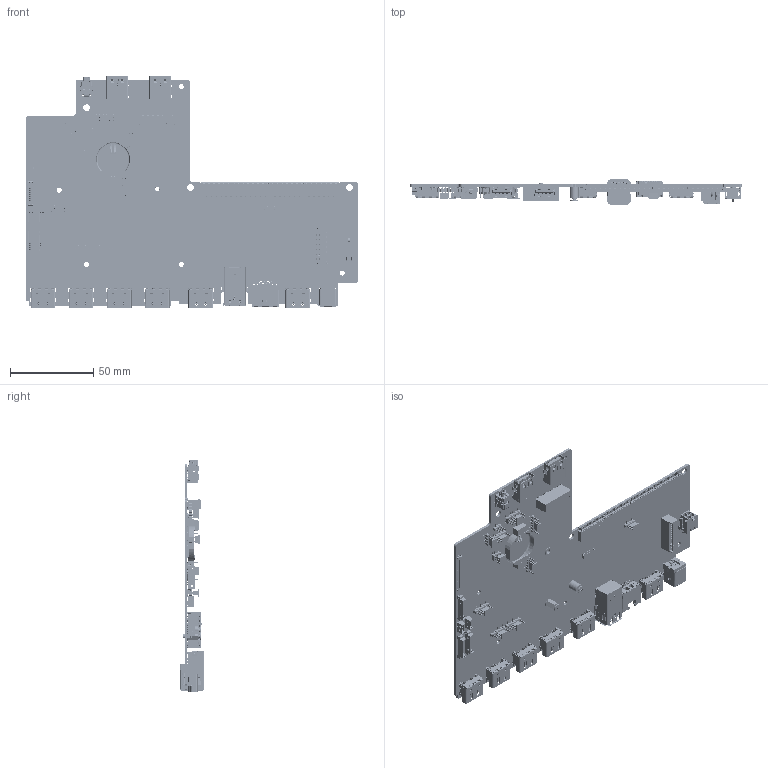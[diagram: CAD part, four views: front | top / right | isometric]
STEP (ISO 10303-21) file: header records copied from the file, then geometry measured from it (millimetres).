
FILE_DESCRIPTION((''),'2;1');
FILE_NAME('PCBA_C_MULTI_HDMI_KIT_AB_2_ASM','2019-10-18T',('jessechien'),(''),'PRO/ENGINEER BY PARAMETRIC TECHNOLOGY CORPORATION, 2015030','PRO/ENGINEER BY PARAMETRIC TECHNOLOGY CORPORATION, 2015030','');
FILE_SCHEMA(('AUTOMOTIVE_DESIGN { 1 0 10303 214 1 1 1 1 }'));
Products named in the file (28): PCB_C_MUTI_HDMI_KIT_AB_2; 10-084-009126_LOTES_AUSTINB; 10-084-004145_LOTES; TLLA4-72BWQR_DIPTRONICS; 11-371-002575_MOSTWELL; 10-083-019864_MOSTWELL; 11-367-012200_SINGATRON; 10-084-018053_LOTES; 10-456-067074_LOTES; 10-456-067074_ADDNUT_2280_ASM; 23-745-201055_GREAT_GOLD; SCREW_I_M20X30D50H08_NI; 23-745-300355_GREAT_GOLD; 23-642-200047_GREAT_GOLD; 10-038-004865_MOSTWELL; 10-261-010394_ACES; 10-340-003822_LS; 10-078-040393_ACES; 10-261-004407_ACES; 10-361-009390_ACES; 10-382-012827_LS; 11-100-002133_LOTES; 10-456-300062_LOTES; 10-340-004821_LS; 10-331-010391_ACES; 10-340-006821_LS; 10-382-006822_LS; PCBA_C_MULTI_HDMI_KIT_AB_2_ASM
Assembly tree (43 placements, depth 3):
  PCBA_C_MULTI_HDMI_KIT_AB_2_ASM
    PCB_C_MUTI_HDMI_KIT_AB_2
    10-084-009126_LOTES_AUSTINB
    10-084-004145_LOTES
    TLLA4-72BWQR_DIPTRONICS
    11-371-002575_MOSTWELL
    10-083-019864_MOSTWELL  x6
    11-367-012200_SINGATRON
    10-084-018053_LOTES
    10-456-067074_ADDNUT_2280_ASM  x2
      10-456-067074_LOTES
    23-745-201055_GREAT_GOLD
    SCREW_I_M20X30D50H08_NI  x2
    23-745-300355_GREAT_GOLD  x2
    23-642-200047_GREAT_GOLD
    10-038-004865_MOSTWELL
    10-261-010394_ACES
    10-340-003822_LS
    10-078-040393_ACES
    10-261-004407_ACES  x2
    10-361-009390_ACES  x2
    10-382-012827_LS
    11-100-002133_LOTES
    10-456-300062_LOTES
    10-340-004821_LS  x2
    10-331-010391_ACES
    10-340-006821_LS  x6
    10-382-006822_LS
Bounding box: 200 x 15.6 x 139.38 mm (x, y, z)
Volume: 43637.7 mm3; surface area: 81215.8 mm2
Topology: 48 solids, 95 shells, 36039 faces, 110233 edges, 73088 vertices
Faces by surface type: plane 25784, cylinder 8668, bspline 781, sphere 472, cone 187, torus 99, extrusion 48
Entity records: 953598 total; most frequent: CARTESIAN_POINT 161271, ORIENTED_EDGE 131716, DIRECTION 125184, EDGE_CURVE 65886, VECTOR 54510, LINE 54502, VERTEX_POINT 42948, PRESENTATION_STYLE_ASSIGNMENT 38766
